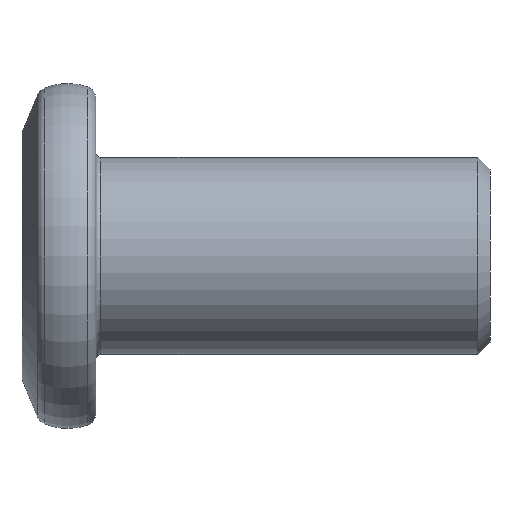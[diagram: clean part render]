
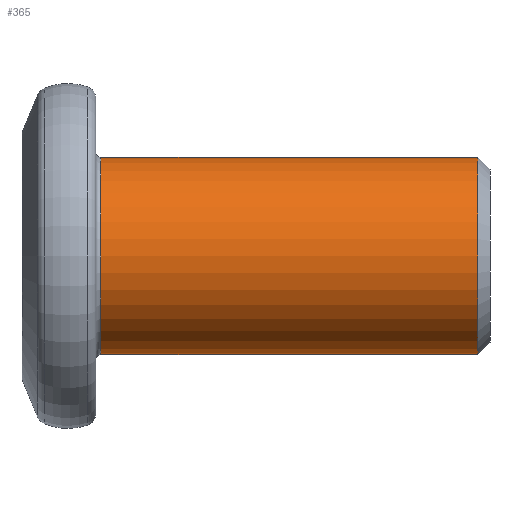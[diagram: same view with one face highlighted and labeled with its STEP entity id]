
A CAD part, front view. The second image highlights one B-rep face of the part: STEP entity #365.
In plain terms, the highlighted cylindrical face has radius 4 mm (diameter 8 mm), a partial arc.
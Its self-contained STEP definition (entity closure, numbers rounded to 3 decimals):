
#5 = DIRECTION ( 'NONE',  ( 0., 0., -1. ) ) ;
#33 = VECTOR ( 'NONE', #309, 1000. ) ;
#91 = AXIS2_PLACEMENT_3D ( 'NONE', #180, #128, #447 ) ;
#113 = LINE ( 'NONE', #739, #305 ) ;
#128 = DIRECTION ( 'NONE',  ( 1., 0., 0. ) ) ;
#180 = CARTESIAN_POINT ( 'NONE',  ( 3.2, 0., 0. ) ) ;
#182 = ORIENTED_EDGE ( 'NONE', *, *, #227, .T. ) ;
#189 = VERTEX_POINT ( 'NONE', #373 ) ;
#199 = DIRECTION ( 'NONE',  ( 0., 0., -1. ) ) ;
#227 = EDGE_CURVE ( 'NONE', #436, #316, #113, .T. ) ;
#251 = CYLINDRICAL_SURFACE ( 'NONE', #558, 4. ) ;
#305 = VECTOR ( 'NONE', #754, 1000. ) ;
#309 = DIRECTION ( 'NONE',  ( 1., 0., 0. ) ) ;
#316 = VERTEX_POINT ( 'NONE', #805 ) ;
#342 = CIRCLE ( 'NONE', #91, 4. ) ;
#344 = EDGE_CURVE ( 'NONE', #687, #436, #342, .T. ) ;
#360 = ORIENTED_EDGE ( 'NONE', *, *, #734, .F. ) ;
#365 = ADVANCED_FACE ( 'NONE', ( #503 ), #251, .T. ) ;
#368 = EDGE_CURVE ( 'NONE', #316, #189, #520, .T. ) ;
#373 = CARTESIAN_POINT ( 'NONE',  ( 18.5, 0., 4. ) ) ;
#376 = CARTESIAN_POINT ( 'NONE',  ( 3.2, 0., -4. ) ) ;
#386 = DIRECTION ( 'NONE',  ( 1., 0., 0. ) ) ;
#394 = CARTESIAN_POINT ( 'NONE',  ( 0., 0., 0. ) ) ;
#428 = CARTESIAN_POINT ( 'NONE',  ( 0., 0., 4. ) ) ;
#436 = VERTEX_POINT ( 'NONE', #376 ) ;
#447 = DIRECTION ( 'NONE',  ( 0., 0., -1. ) ) ;
#452 = DIRECTION ( 'NONE',  ( -1., 0., 0. ) ) ;
#493 = LINE ( 'NONE', #428, #33 ) ;
#503 = FACE_OUTER_BOUND ( 'NONE', #569, .T. ) ;
#520 = CIRCLE ( 'NONE', #730, 4. ) ;
#558 = AXIS2_PLACEMENT_3D ( 'NONE', #394, #386, #199 ) ;
#569 = EDGE_LOOP ( 'NONE', ( #360, #626, #182, #777 ) ) ;
#582 = CARTESIAN_POINT ( 'NONE',  ( 18.5, 0., 0. ) ) ;
#626 = ORIENTED_EDGE ( 'NONE', *, *, #344, .T. ) ;
#687 = VERTEX_POINT ( 'NONE', #748 ) ;
#730 = AXIS2_PLACEMENT_3D ( 'NONE', #582, #452, #5 ) ;
#734 = EDGE_CURVE ( 'NONE', #687, #189, #493, .T. ) ;
#739 = CARTESIAN_POINT ( 'NONE',  ( 0., 0., -4. ) ) ;
#748 = CARTESIAN_POINT ( 'NONE',  ( 3.2, 0., 4. ) ) ;
#754 = DIRECTION ( 'NONE',  ( 1., 0., 0. ) ) ;
#777 = ORIENTED_EDGE ( 'NONE', *, *, #368, .T. ) ;
#805 = CARTESIAN_POINT ( 'NONE',  ( 18.5, 0., -4. ) ) ;
